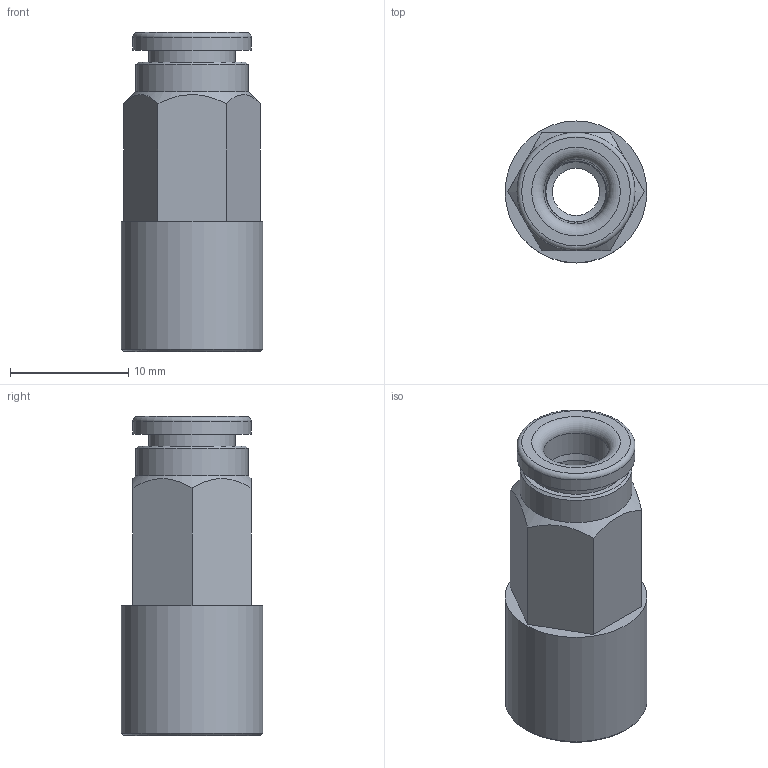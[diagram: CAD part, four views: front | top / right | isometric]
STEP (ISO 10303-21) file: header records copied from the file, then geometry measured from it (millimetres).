
FILE_DESCRIPTION(('Bauteilbeschreibung','HiCAD-Model','HiCAD-STEP-TRANSLATION','Bauteilbeschreibung'),'2;1');
FILE_NAME('B:/ABGLEICH/ZEICHNUNGEN/STEP FÜR INTERNET/STEP/200203_IPSO_02_5_1-8.STP','2011-07-14T16:06:42+00:00',('Konstrukteur'),('Konstrukteur Firma GmbH'),' HiCAD neXt 2008, Step 3.1.1401.2J ','HiCAD neXt 2008','confidential');
FILE_SCHEMA(('AUTOMOTIVE_DESIGN { 1 2 10303 214 0 1 1 1 }'));
Length unit declared in the file: millimetre
Products named in the file (5): A00203_IPSO_02_5_1_8; DR5_1; R200203; R2002030; G 1_8
Assembly tree (4 placements, depth 3):
  A00203_IPSO_02_5_1_8
    DR5_1
    R200203
    R2002030
      G 1_8
Bounding box: 12 x 12 x 27 mm (x, y, z)
Volume: 1472.8 mm3; surface area: 2434.3 mm2
Topology: 3 solids, 3 shells, 47 faces, 98 edges, 61 vertices
Faces by surface type: plane 16, cylinder 14, cone 11, torus 6
Full cylindrical faces by diameter (mm): 4 x1, 5.1 x1, 5.2 x1, 5.5 x1, 6 x1, 7.3 x1, 7.5 x1, 8.566 x2, 9.5 x1, 9.728 x2, 10 x1, 12 x1
Entity records: 1574 total; most frequent: DIRECTION 202, CARTESIAN_POINT 184, ORIENTED_EDGE 116, AXIS2_PLACEMENT_3D 95, EDGE_LOOP 88, COLOUR_RGB 61, PRESENTATION_STYLE_ASSIGNMENT 61, CURVE_STYLE 58
